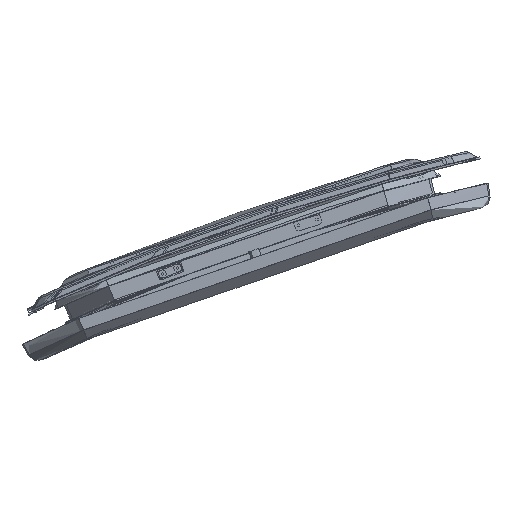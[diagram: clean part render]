
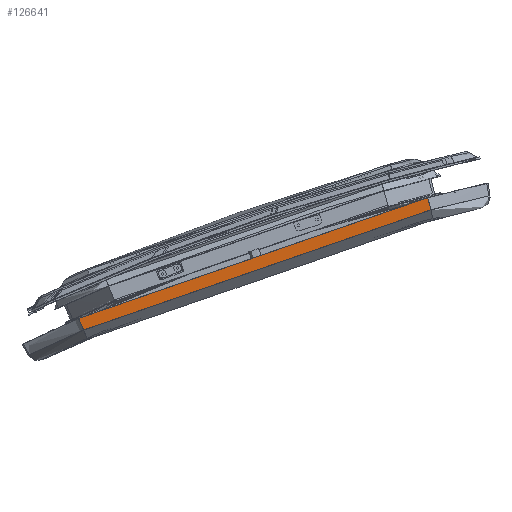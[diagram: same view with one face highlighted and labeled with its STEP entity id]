
A CAD part, front view. The second image highlights one B-rep face of the part: STEP entity #126641.
In plain terms, the highlighted conical face has half-angle 85.017 degrees and reference radius 3499 mm.
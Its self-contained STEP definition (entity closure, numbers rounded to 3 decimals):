
#17555 = CARTESIAN_POINT ( 'NONE',  ( 2260.315, -533.394, 2568.618 ) ) ;
#18179 = CARTESIAN_POINT ( 'NONE',  ( 3669.379, -532.339, -634.123 ) ) ;
#25795 = CARTESIAN_POINT ( 'NONE',  ( 2550.408, -533.397, 2681.141 ) ) ;
#26731 = VERTEX_POINT ( 'NONE', #169502 ) ;
#27648 = CARTESIAN_POINT ( 'NONE',  ( 2525.278, -533.397, 2672.544 ) ) ;
#28609 = FACE_OUTER_BOUND ( 'NONE', #133272, .T. ) ;
#33293 = CARTESIAN_POINT ( 'NONE',  ( 2592.14, -533.396, 2694.941 ) ) ;
#44748 = VERTEX_POINT ( 'NONE', #221067 ) ;
#46821 = CARTESIAN_POINT ( 'NONE',  ( 2799.451, -532.825, 2748.308 ) ) ;
#61823 = DIRECTION ( 'NONE',  ( 0., 0., -1. ) ) ;
#69479 = CARTESIAN_POINT ( 'NONE',  ( 2520.386, -533.396, 2670.848 ) ) ;
#76936 = CARTESIAN_POINT ( 'NONE',  ( 2678.308, -533.395, 2721.625 ) ) ;
#90381 = CARTESIAN_POINT ( 'NONE',  ( 2797.833, -533.394, 2754.597 ) ) ;
#107345 = EDGE_CURVE ( 'NONE', #392237, #26731, #115969, .T. ) ;
#112511 = CARTESIAN_POINT ( 'NONE',  ( 2265.545, -532.258, 2556.73 ) ) ;
#112978 = CARTESIAN_POINT ( 'NONE',  ( 2533.198, -533.397, 2675.278 ) ) ;
#115969 = B_SPLINE_CURVE_WITH_KNOTS ( 'NONE', 3,
 ( #249304, #509062, #461766, #330937, #118588, #465490, #547102, #247459, #503490, #69479, #198320, #154688, #552695, #243753, #285353, #120433, #463630, #418086, #27648, #202013, #550822, #205758, #112978, #241874, #25795, #156514, #289073, #33293, #334622, #458042, #290980, #336465, #76936, #505346, #287200, #419971, #203866, #245608 ),
 .UNSPECIFIED., .F., .F.,
 ( 4, 2, 2, 1, 1, 1, 1, 1, 1, 1, 1, 1, 1, 1, 1, 2, 2, 2, 2, 2, 2, 2, 2, 2, 4 ),
 ( 0., 0.25, 0.375, 0.438, 0.469, 0.484, 0.492, 0.496, 0.498, 0.499, 0.5, 0.5, 0.5, 0.5, 0.5, 0.5, 0.5, 0.563, 0.625, 0.688, 0.75, 0.813, 0.875, 0.938, 1. ),
 .UNSPECIFIED. ) ;
#118588 = CARTESIAN_POINT ( 'NONE',  ( 2436.007, -533.396, 2640.38 ) ) ;
#120433 = CARTESIAN_POINT ( 'NONE',  ( 2525.213, -533.397, 2672.521 ) ) ;
#120518 = VERTEX_POINT ( 'NONE', #127405 ) ;
#126641 = ADVANCED_FACE ( 'NONE', ( #28609 ), #544342, .F. ) ;
#127405 = CARTESIAN_POINT ( 'NONE',  ( 2268.161, -531.69, 2550.786 ) ) ;
#132926 = AXIS2_PLACEMENT_3D ( 'NONE', #18179, #406723, #61823 ) ;
#133272 = EDGE_LOOP ( 'NONE', ( #470918, #252158, #513812, #495415 ) ) ;
#143983 = EDGE_CURVE ( 'NONE', #44748, #26731, #260076, .T. ) ;
#154688 = CARTESIAN_POINT ( 'NONE',  ( 2524.063, -533.396, 2672.123 ) ) ;
#156034 = CARTESIAN_POINT ( 'NONE',  ( 2260.315, -533.394, 2568.618 ) ) ;
#156514 = CARTESIAN_POINT ( 'NONE',  ( 2565.137, -533.396, 2686.076 ) ) ;
#169502 = CARTESIAN_POINT ( 'NONE',  ( 2797.833, -533.394, 2754.597 ) ) ;
#196460 = EDGE_CURVE ( 'NONE', #44748, #120518, #475085, .T. ) ;
#198320 = CARTESIAN_POINT ( 'NONE',  ( 2522.837, -533.396, 2671.698 ) ) ;
#202013 = CARTESIAN_POINT ( 'NONE',  ( 2525.284, -533.397, 2672.546 ) ) ;
#203866 = CARTESIAN_POINT ( 'NONE',  ( 2778.411, -533.394, 2749.602 ) ) ;
#205758 = CARTESIAN_POINT ( 'NONE',  ( 2528.759, -533.397, 2673.748 ) ) ;
#221067 = CARTESIAN_POINT ( 'NONE',  ( 2802.686, -531.69, 2735.729 ) ) ;
#241874 = CARTESIAN_POINT ( 'NONE',  ( 2544.022, -533.397, 2678.975 ) ) ;
#243753 = CARTESIAN_POINT ( 'NONE',  ( 2524.983, -533.397, 2672.442 ) ) ;
#245608 = CARTESIAN_POINT ( 'NONE',  ( 2797.833, -533.394, 2754.597 ) ) ;
#247459 = CARTESIAN_POINT ( 'NONE',  ( 2505.688, -533.396, 2665.71 ) ) ;
#249304 = CARTESIAN_POINT ( 'NONE',  ( 2260.315, -533.394, 2568.618 ) ) ;
#251847 = CARTESIAN_POINT ( 'NONE',  ( 2802.686, -531.69, 2735.729 ) ) ;
#252158 = ORIENTED_EDGE ( 'NONE', *, *, #107345, .F. ) ;
#257109 = CARTESIAN_POINT ( 'NONE',  ( 2801.068, -532.257, 2742.019 ) ) ;
#260076 = B_SPLINE_CURVE_WITH_KNOTS ( 'NONE', 3,
 ( #424060, #257109, #46821, #90381 ),
 .UNSPECIFIED., .F., .F.,
 ( 4, 4 ),
 ( 0., 1. ),
 .UNSPECIFIED. ) ;
#285353 = CARTESIAN_POINT ( 'NONE',  ( 2525.136, -533.397, 2672.495 ) ) ;
#287200 = CARTESIAN_POINT ( 'NONE',  ( 2725.297, -533.395, 2735.157 ) ) ;
#289073 = CARTESIAN_POINT ( 'NONE',  ( 2573.481, -533.396, 2688.845 ) ) ;
#290980 = CARTESIAN_POINT ( 'NONE',  ( 2637.38, -533.396, 2709.256 ) ) ;
#328615 = CARTESIAN_POINT ( 'NONE',  ( 2268.161, -531.69, 2550.786 ) ) ;
#330937 = CARTESIAN_POINT ( 'NONE',  ( 2413.832, -533.395, 2631.941 ) ) ;
#333457 = CARTESIAN_POINT ( 'NONE',  ( 2268.161, -531.69, 2550.786 ) ) ;
#334622 = CARTESIAN_POINT ( 'NONE',  ( 2602.456, -533.396, 2698.268 ) ) ;
#336465 = CARTESIAN_POINT ( 'NONE',  ( 2663.996, -533.396, 2717.356 ) ) ;
#337137 = CARTESIAN_POINT ( 'NONE',  ( 2442.473, -531.69, 2623.279 ) ) ;
#361685 = EDGE_CURVE ( 'NONE', #120518, #392237, #483397, .T. ) ;
#392237 = VERTEX_POINT ( 'NONE', #17555 ) ;
#406723 = DIRECTION ( 'NONE',  ( 0., -1., 0. ) ) ;
#415769 = CARTESIAN_POINT ( 'NONE',  ( 2262.93, -532.827, 2562.674 ) ) ;
#418086 = CARTESIAN_POINT ( 'NONE',  ( 2525.27, -533.397, 2672.541 ) ) ;
#418756 = CARTESIAN_POINT ( 'NONE',  ( 2711.287, -531.69, 2712.222 ) ) ;
#419971 = CARTESIAN_POINT ( 'NONE',  ( 2760.024, -533.394, 2744.695 ) ) ;
#424060 = CARTESIAN_POINT ( 'NONE',  ( 2802.686, -531.69, 2735.729 ) ) ;
#458042 = CARTESIAN_POINT ( 'NONE',  ( 2625.076, -533.396, 2705.425 ) ) ;
#461766 = CARTESIAN_POINT ( 'NONE',  ( 2347.57, -533.395, 2605.952 ) ) ;
#463630 = CARTESIAN_POINT ( 'NONE',  ( 2525.251, -533.397, 2672.534 ) ) ;
#465490 = CARTESIAN_POINT ( 'NONE',  ( 2469.396, -533.396, 2652.698 ) ) ;
#466169 = CARTESIAN_POINT ( 'NONE',  ( 2354.543, -531.69, 2588.791 ) ) ;
#470918 = ORIENTED_EDGE ( 'NONE', *, *, #143983, .T. ) ;
#475085 = B_SPLINE_CURVE_WITH_KNOTS ( 'NONE', 3,
 ( #251847, #418756, #506029, #337137, #466169, #333457 ),
 .UNSPECIFIED., .F., .F.,
 ( 4, 2, 4 ),
 ( 0., 0.5, 1. ),
 .UNSPECIFIED. ) ;
#483397 = B_SPLINE_CURVE_WITH_KNOTS ( 'NONE', 3,
 ( #328615, #112511, #415769, #156034 ),
 .UNSPECIFIED., .F., .F.,
 ( 4, 4 ),
 ( 0., 1. ),
 .UNSPECIFIED. ) ;
#495415 = ORIENTED_EDGE ( 'NONE', *, *, #196460, .F. ) ;
#503490 = CARTESIAN_POINT ( 'NONE',  ( 2515.484, -533.396, 2669.141 ) ) ;
#505346 = CARTESIAN_POINT ( 'NONE',  ( 2708.958, -533.395, 2730.526 ) ) ;
#506029 = CARTESIAN_POINT ( 'NONE',  ( 2620.845, -531.69, 2684.995 ) ) ;
#509062 = CARTESIAN_POINT ( 'NONE',  ( 2303.748, -533.394, 2587.727 ) ) ;
#513812 = ORIENTED_EDGE ( 'NONE', *, *, #361685, .F. ) ;
#544342 = CONICAL_SURFACE ( 'NONE', #132926, 3499.002, 1.484 ) ;
#547102 = CARTESIAN_POINT ( 'NONE',  ( 2486.121, -533.396, 2658.772 ) ) ;
#550822 = CARTESIAN_POINT ( 'NONE',  ( 2525.288, -533.397, 2672.547 ) ) ;
#552695 = CARTESIAN_POINT ( 'NONE',  ( 2524.676, -533.396, 2672.335 ) ) ;
